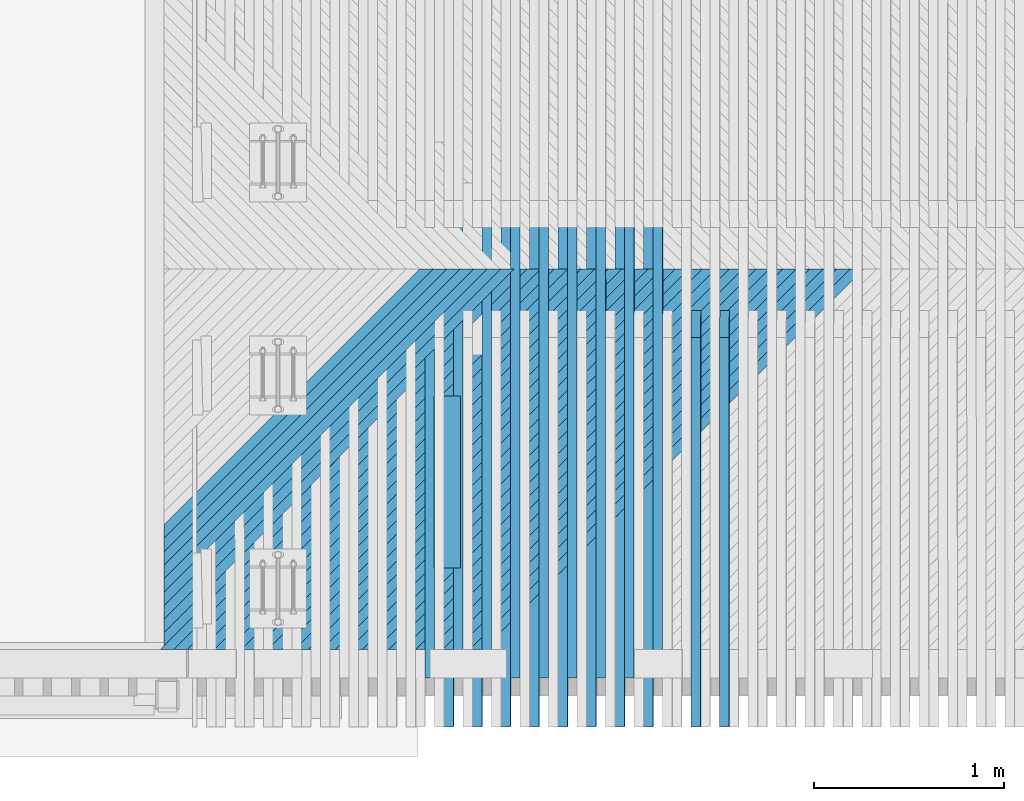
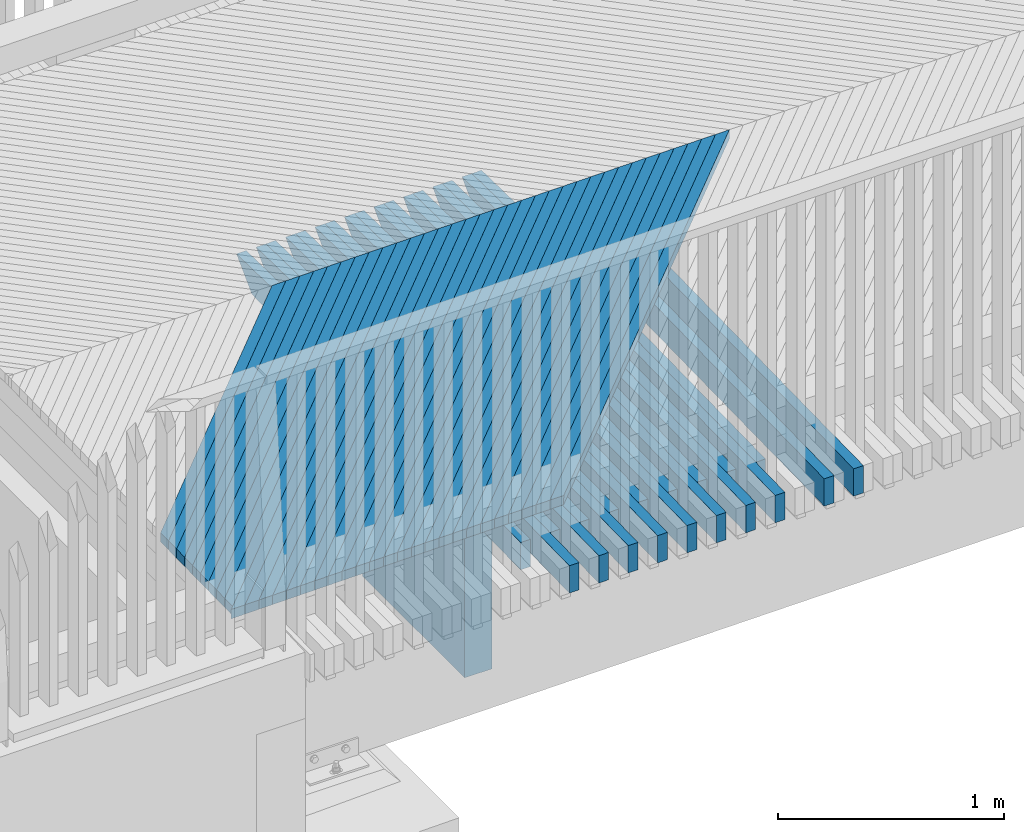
# One storey, part 15 of 47: 53 beams.
"""IFC2X3 building model written with IfcOpenShell, lengths in millimetres."""

import ifcopenshell
import ifcopenshell.guid

model = None  # the IFC model being written
_history = None  # IfcOwnerHistory: only IFC2X3 demands one
_inside = {}  # id of a spatial element -> (the spatial element, [elements in it])
_under = {}  # id of a project, library or spatial element -> (it, [spatial elements below it])
_declared = {}  # id of a project -> (the project, [libraries it declares])
_typed = {}  # id of a type object -> (the type object, [elements of that type])
_made_of = {}  # id of a material, layer set ... -> (it, [elements and type objects made of it])


def new_model(schema):
    """Start an empty IFC model of exactly this schema.

    Asked for "IFC4X3", IfcOpenShell would pick the latest addendum, in which some entities
    have other attributes; the version numbers below select the first issue.
    IFC2X3 requires an IfcOwnerHistory on every rooted entity: one is made here for all.
    """
    global model, _history
    if schema == "IFC4X3":
        model = ifcopenshell.file(schema_version=(4, 3, 0, 0))
    else:
        model = ifcopenshell.file(schema=schema)
    _inside.clear()
    _under.clear()
    _declared.clear()
    _typed.clear()
    _made_of.clear()
    _history = None
    if model.schema == "IFC2X3":
        org = make("IfcOrganization", Name="unknown")
        user = make(
            "IfcPersonAndOrganization",
            ThePerson=make("IfcPerson", FamilyName="unknown"),
            TheOrganization=org,
        )
        app = make(
            "IfcApplication",
            ApplicationDeveloper=org,
            Version="unknown",
            ApplicationFullName="unknown",
            ApplicationIdentifier="unknown",
        )
        _history = make(
            "IfcOwnerHistory",
            OwningUser=user,
            OwningApplication=app,
            ChangeAction="ADDED",
            CreationDate=0,
        )
    return model


def make(cls, **values):
    """One entity of the class cls with the attributes given. An attribute that is None is left unset."""
    return model.create_entity(
        cls, **{name: value for name, value in values.items() if value is not None}
    )


def rooted(cls, **values):
    """An entity with a GlobalId (a new one), such as an element, a storey or a relation."""
    return make(cls, GlobalId=ifcopenshell.guid.new(), OwnerHistory=_history, **values)


def si_unit(unit_type, name, prefix=None):
    """IfcSIUnit, for example si_unit("LENGTHUNIT", "METRE", prefix="MILLI")."""
    return make("IfcSIUnit", UnitType=unit_type, Prefix=prefix, Name=name)


def assignment(units):
    """IfcUnitAssignment: the units of a project."""
    return None if units is None else make("IfcUnitAssignment", Units=units)


def point(xyz):
    """IfcCartesianPoint."""
    return None if xyz is None else make("IfcCartesianPoint", Coordinates=xyz)


def direction(xyz):
    """IfcDirection."""
    return None if xyz is None else make("IfcDirection", DirectionRatios=xyz)


def frame(location, z_axis=None, x_axis=None):
    """IfcAxis2Placement3D, a coordinate frame: its origin and axes. An axis left out is left unset."""
    return make(
        "IfcAxis2Placement3D",
        Location=point(location),
        Axis=direction(z_axis),
        RefDirection=direction(x_axis),
    )


def origin_with_axes():
    """The frame at (0, 0, 0) with the z axis (0, 0, 1) and the x axis (1, 0, 0) written out."""
    return frame((0.0, 0.0, 0.0), z_axis=(0.0, 0.0, 1.0), x_axis=(1.0, 0.0, 0.0))


def place(relative_to, where):
    """IfcLocalPlacement: puts the frame where relative to a parent placement (None: the world)."""
    return make(
        "IfcLocalPlacement", PlacementRelTo=relative_to, RelativePlacement=where
    )


def context(
    kind, dimensions, precision=None, world=None, true_north=None, identifier=None
):
    """IfcGeometricRepresentationContext, for example the 3D "Model" context."""
    return make(
        "IfcGeometricRepresentationContext",
        ContextIdentifier=identifier,
        ContextType=kind,
        CoordinateSpaceDimension=dimensions,
        Precision=precision,
        WorldCoordinateSystem=world,
        TrueNorth=true_north,
    )


def subcontext(parent, identifier, kind, view, scale=None):
    """IfcGeometricRepresentationSubContext, for example "Body" below "Model"."""
    return make(
        "IfcGeometricRepresentationSubContext",
        ContextIdentifier=identifier,
        ContextType=kind,
        ParentContext=parent,
        TargetScale=scale,
        TargetView=view,
    )


def project(units=None, contexts=None):
    """IfcProject with its units and contexts."""
    return rooted(
        "IfcProject",
        Name="project",
        RepresentationContexts=contexts,
        UnitsInContext=assignment(units),
    )


def spatial(cls, under=None, at=None, **own):
    """A site, building, storey or space (cls), placed at a placement, below another one or the project."""
    s = rooted(cls, ObjectPlacement=at, **own)
    if under is not None:
        _under.setdefault(under.id(), (under, []))[1].append(s)
    return s


def faces_of(points, faces, orient=None, outer=None):
    """IfcFace entities. A face is a list of loops; a loop is a list of indices into points, from 0.

    orient and outer hold one flag for each loop. By default every Orientation is true, the
    first loop of a face is its IfcFaceOuterBound and the others are IfcFaceBound.
    """
    made = []
    for i, loops in enumerate(faces):
        bounds = []
        for j, loop in enumerate(loops):
            is_outer = j == 0 if outer is None else outer[i][j]
            bounds.append(
                make(
                    "IfcFaceOuterBound" if is_outer else "IfcFaceBound",
                    Bound=make("IfcPolyLoop", Polygon=[points[k] for k in loop]),
                    Orientation=True if orient is None else orient[i][j],
                )
            )
        made.append(make("IfcFace", Bounds=bounds))
    return made


def faceted_brep(points, faces, orient=None, outer=None, voids=None):
    """IfcFacetedBrep: a solid bounded by flat faces; with voids (closed shells), ...WithVoids."""
    shared = [point(p) for p in points]
    hull = make("IfcClosedShell", CfsFaces=faces_of(shared, faces, orient, outer))
    if voids is None:
        return make("IfcFacetedBrep", Outer=hull)
    return make(
        "IfcFacetedBrepWithVoids",
        Outer=hull,
        Voids=[
            make(cls, CfsFaces=faces_of(shared, fs, o, b)) for cls, fs, o, b in voids
        ],
    )


def shape(context_of_items, identifier, shape_type, items):
    """IfcShapeRepresentation: the items that make up one representation, for example the "Body"."""
    return make(
        "IfcShapeRepresentation",
        ContextOfItems=context_of_items,
        RepresentationIdentifier=identifier,
        RepresentationType=shape_type,
        Items=items,
    )


def material(Name=None, Category=None):
    """IfcMaterial."""
    return make("IfcMaterial", Name=Name, Category=Category)


def made_of(thing, what):
    """Note that an element or type object is made of a material, layer set ...; save() writes the relation."""
    if what is not None:
        _made_of.setdefault(what.id(), (what, []))[1].append(thing)
    return thing


def type_object(cls, material=None, **own):
    """A type object (cls), such as IfcWallType, which elements share."""
    return made_of(rooted(cls, **own), material)


def element(
    cls,
    number,
    at=None,
    inside=None,
    cuts=None,
    type_object=None,
    material=None,
    context=None,
    identifier="Body",
    shape_type=None,
    held_by="IfcProductDefinitionShape",
    body=None,
    shapes=None,
    **own,
):
    """One element of the class cls, such as IfcWall. Its Tag is "e" and its number.

    at: its placement. inside: the storey or other place that contains it. cuts: it is an
    opening in that element (IfcRelVoidsElement). A single representation is given by context,
    identifier, shape_type and body (its items); several are given by shapes. held_by: the class
    of the entity that holds the representations. save() writes the other relations.
    """
    e = rooted(cls, Tag="e%d" % number, ObjectPlacement=at, **own)
    if body is not None:
        shapes = [shape(context, identifier, shape_type, body)]
    if shapes is not None:
        e.Representation = make(held_by, Representations=shapes)
    if inside is not None:
        _inside.setdefault(inside.id(), (inside, []))[1].append(e)
    if cuts is not None:
        rooted(
            "IfcRelVoidsElement", RelatingBuildingElement=cuts, RelatedOpeningElement=e
        )
    if type_object is not None:
        _typed.setdefault(type_object.id(), (type_object, []))[1].append(e)
    return made_of(e, material)


def aggregate(whole, parts):
    """IfcRelAggregates: a whole, such as a stair, and the parts it consists of."""
    return rooted("IfcRelAggregates", RelatingObject=whole, RelatedObjects=parts)


def save(model, path):
    """Write the relations noted so far, then the file.

    IfcRelAggregates (storeys below a building ...), IfcRelContainedInSpatialStructure (elements
    in a storey), IfcRelDefinesByType, IfcRelAssociatesMaterial and IfcRelDeclares: one each for
    every whole, place, type object, material and project.
    """
    for whole, parts in _under.values():
        aggregate(whole, parts)
    for where, things in _inside.values():
        rooted(
            "IfcRelContainedInSpatialStructure",
            RelatedElements=things,
            RelatingStructure=where,
        )
    for kind, things in _typed.values():
        rooted("IfcRelDefinesByType", RelatedObjects=things, RelatingType=kind)
    for what, things in _made_of.values():
        rooted("IfcRelAssociatesMaterial", RelatedObjects=things, RelatingMaterial=what)
    for by, libraries in _declared.values():
        rooted("IfcRelDeclares", RelatingContext=by, RelatedDefinitions=libraries)
    model.write(path)


model = new_model("IFC2X3")

# Units and contexts
model_context = context("Model", 3, precision=1e-05, world=origin_with_axes())
body_context = subcontext(model_context, "Body", "Model", "MODEL_VIEW")
ifc_project = project(units=[si_unit("LENGTHUNIT", "METRE", prefix="MILLI"), si_unit("AREAUNIT", "SQUARE_METRE"), si_unit("VOLUMEUNIT", "CUBIC_METRE"), si_unit("MASSUNIT", "GRAM", prefix="KILO"), si_unit("TIMEUNIT", "SECOND"), si_unit("PLANEANGLEUNIT", "RADIAN"), si_unit("SOLIDANGLEUNIT", "STERADIAN"), si_unit("THERMODYNAMICTEMPERATUREUNIT", "DEGREE_CELSIUS"), si_unit("LUMINOUSINTENSITYUNIT", "LUMEN")], contexts=[model_context])

# Site, building, storey
site_placement = place(None, origin_with_axes())
site = spatial("IfcSite", under=ifc_project, at=site_placement, Name="Undefined", CompositionType="ELEMENT")
building_placement = place(site_placement, origin_with_axes())
building = spatial("IfcBuilding", under=site, at=building_placement, Name="Undefined", CompositionType="ELEMENT")
storey_placement = place(building_placement, origin_with_axes())
storey = spatial("IfcBuildingStorey", under=building, at=storey_placement, Name="Undefined", CompositionType="ELEMENT", Elevation=0.0)

# Beams
ifc_material = material(Name="TIMBER/Timber_Undefined")
beam_type_1 = type_object("IfcBeamType", Name="150*50", PredefinedType="NOTDEFINED")
beam_1_placement = place(storey_placement, frame((898.779144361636, 59958.5561921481, 3046.10153972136), z_axis=(-0.0117917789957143, -0.0199960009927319, 0.999730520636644), x_axis=(-0.000235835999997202, 0.999800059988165, 0.0199946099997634)))
element("IfcBeam", 1, at=beam_1_placement, inside=storey, type_object=beam_type_1, material=ifc_material, Name="BEAM", ObjectType="150*50", context=body_context, shape_type="Brep", body=[
    faceted_brep([(6.18456397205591e-09, -24.9999999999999, -75.0000000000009), (-6.1918399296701e-09, -24.9999999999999, 74.9999999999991), (-6.19911588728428e-09, 25.0, 75.0), (6.18456397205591e-09, 24.9999999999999, -75.0), (2633.00494983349, 25.0000000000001, -75.0000000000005), (2633.00495050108, -24.9999999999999, -75.0000000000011), (2768.59248707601, -25.0, 60.5875366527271), (2408.42499905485, -25.0, 74.9999999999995), (2408.42501428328, 25.0000000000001, 74.9999999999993), (2768.5924870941, 25.0, 60.5875375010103)], [[[0, 1, 2, 3]], [[0, 3, 4, 5]], [[1, 0, 5, 6, 7]], [[2, 1, 7, 8]], [[4, 3, 2, 8, 9]], [[5, 4, 9, 6]], [[8, 7, 6, 9]]]),
])
beam_2_placement = place(storey_placement, frame((798.705323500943, 60216.5046076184, 3050.07192369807), z_axis=(-0.0119578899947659, -0.019996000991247, 0.999728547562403), x_axis=(-0.00023915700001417, 0.999800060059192, 0.0199945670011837)))
element("IfcBeam", 2, at=beam_2_placement, inside=storey, type_object=beam_type_1, material=ifc_material, Name="BEAM", ObjectType="150*50", context=body_context, shape_type="Brep", body=[
    faceted_brep([(6.18456397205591e-09, -24.9999999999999, -75.0000000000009), (-6.1918399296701e-09, -24.9999999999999, 74.9999999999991), (-6.19911588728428e-09, 25.0, 75.0), (6.18456397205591e-09, 24.9999999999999, -75.0), (2375.00494220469, 24.9999999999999, -75.0000000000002), (2375.00494218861, -25.0, -75.0), (2510.59248711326, -25.0, 60.5875455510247), (2150.42518973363, -25.0, 75.0000000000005), (2150.42518840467, 25.0, 74.9999999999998), (2510.59248707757, 25.0, 60.5875454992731)], [[[0, 1, 2, 3]], [[0, 3, 4, 5]], [[1, 0, 5, 6, 7]], [[2, 1, 7, 8]], [[4, 3, 2, 8, 9]], [[5, 4, 9, 6]], [[8, 7, 6, 9]]]),
])
beam_3_placement = place(storey_placement, frame((1048.7976881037, 59958.5561921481, 3047.8527036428), z_axis=(-0.0115426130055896, -0.0199960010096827, 0.999733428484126), x_axis=(-0.000230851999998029, 0.999800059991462, 0.0199946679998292)))
element("IfcBeam", 3, at=beam_3_placement, inside=storey, type_object=beam_type_1, material=ifc_material, Name="BEAM", ObjectType="150*50", context=body_context, shape_type="Brep", body=[
    faceted_brep([(6.18456397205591e-09, -24.9999999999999, -75.0000000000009), (-6.1918399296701e-09, -24.9999999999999, 74.9999999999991), (-6.19911588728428e-09, 25.0, 75.0), (6.18456397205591e-09, 24.9999999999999, -75.0), (2633.00494983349, 25.0000000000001, -75.0000000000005), (2633.00495050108, -24.9999999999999, -75.0000000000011), (2768.59248707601, -25.0, 60.5875366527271), (2408.42499905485, -25.0, 74.9999999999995), (2408.42501428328, 25.0000000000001, 74.9999999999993), (2768.5924870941, 25.0, 60.5875375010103)], [[[0, 1, 2, 3]], [[0, 3, 4, 5]], [[1, 0, 5, 6, 7]], [[2, 1, 7, 8]], [[4, 3, 2, 8, 9]], [[5, 4, 9, 6]], [[8, 7, 6, 9]]]),
])
beam_4_placement = place(storey_placement, frame((948.724859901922, 60216.5046076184, 3051.84802919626), z_axis=(-0.0117087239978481, -0.0199960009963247, 0.999731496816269), x_axis=(-0.000234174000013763, 0.999800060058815, 0.0199946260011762)))
element("IfcBeam", 4, at=beam_4_placement, inside=storey, type_object=beam_type_1, material=ifc_material, Name="BEAM", ObjectType="150*50", context=body_context, shape_type="Brep", body=[
    faceted_brep([(6.18456397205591e-09, -24.9999999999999, -75.0000000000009), (-6.1918399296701e-09, -24.9999999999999, 74.9999999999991), (-6.19911588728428e-09, 25.0, 75.0), (6.18456397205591e-09, 24.9999999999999, -75.0), (2375.00494220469, 24.9999999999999, -75.0000000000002), (2375.00494218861, -25.0, -75.0), (2510.59248711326, -25.0, 60.5875455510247), (2150.42518973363, -25.0, 75.0000000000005), (2150.42518840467, 25.0, 74.9999999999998), (2510.59248707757, 25.0, 60.5875454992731)], [[[0, 1, 2, 3]], [[0, 3, 4, 5]], [[1, 0, 5, 6, 7]], [[2, 1, 7, 8]], [[4, 3, 2, 8, 9]], [[5, 4, 9, 6]], [[8, 7, 6, 9]]]),
])
beam_5_placement = place(storey_placement, frame((1198.81666363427, 59958.5561921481, 3049.56647793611), z_axis=(-0.0112934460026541, -0.0199960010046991, 0.999736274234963), x_axis=(-0.000225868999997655, 0.999800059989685, 0.0199947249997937)))
element("IfcBeam", 5, at=beam_5_placement, inside=storey, type_object=beam_type_1, material=ifc_material, Name="BEAM", ObjectType="150*50", context=body_context, shape_type="Brep", body=[
    faceted_brep([(6.18456397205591e-09, -24.9999999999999, -75.0000000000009), (-6.1918399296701e-09, -24.9999999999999, 74.9999999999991), (-6.19911588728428e-09, 25.0, 75.0), (6.18456397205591e-09, 24.9999999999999, -75.0), (2633.00494983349, 25.0000000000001, -75.0000000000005), (2633.00495050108, -24.9999999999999, -75.0000000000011), (2768.59248707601, -25.0, 60.5875366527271), (2408.42499905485, -25.0, 74.9999999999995), (2408.42501428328, 25.0000000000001, 74.9999999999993), (2768.5924870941, 25.0, 60.5875375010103)], [[[0, 1, 2, 3]], [[0, 3, 4, 5]], [[1, 0, 5, 6, 7]], [[2, 1, 7, 8]], [[4, 3, 2, 8, 9]], [[5, 4, 9, 6]], [[8, 7, 6, 9]]]),
])
beam_6_placement = place(storey_placement, frame((1098.74483430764, 60216.5046076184, 3053.58674481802), z_axis=(-0.0114595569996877, -0.0199960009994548, 0.999734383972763), x_axis=(-0.000229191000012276, 0.9998000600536, 0.0199946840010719)))
element("IfcBeam", 6, at=beam_6_placement, inside=storey, type_object=beam_type_1, material=ifc_material, Name="BEAM", ObjectType="150*50", context=body_context, shape_type="Brep", body=[
    faceted_brep([(6.18456397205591e-09, -24.9999999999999, -75.0000000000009), (-6.1918399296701e-09, -24.9999999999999, 74.9999999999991), (-6.19911588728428e-09, 25.0, 75.0), (6.18456397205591e-09, 24.9999999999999, -75.0), (2375.00494220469, 24.9999999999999, -75.0000000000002), (2375.00494218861, -25.0, -75.0), (2510.59248711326, -25.0, 60.5875455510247), (2150.42518973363, -25.0, 75.0000000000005), (2150.42518840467, 25.0, 74.9999999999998), (2510.59248707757, 25.0, 60.5875454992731)], [[[0, 1, 2, 3]], [[0, 3, 4, 5]], [[1, 0, 5, 6, 7]], [[2, 1, 7, 8]], [[4, 3, 2, 8, 9]], [[5, 4, 9, 6]], [[8, 7, 6, 9]]]),
])
beam_7_placement = place(storey_placement, frame((1348.8360616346, 59958.5561921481, 3051.24286249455), z_axis=(-0.0110442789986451, -0.0199960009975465, 0.999739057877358), x_axis=(-0.000220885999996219, 0.99980005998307, 0.0199947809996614)))
element("IfcBeam", 7, at=beam_7_placement, inside=storey, type_object=beam_type_1, material=ifc_material, Name="BEAM", ObjectType="150*50", context=body_context, shape_type="Brep", body=[
    faceted_brep([(6.18456397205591e-09, -24.9999999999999, -75.0000000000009), (-6.1918399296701e-09, -24.9999999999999, 74.9999999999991), (-6.19911588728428e-09, 25.0, 75.0), (6.18456397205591e-09, 24.9999999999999, -75.0), (2633.00494983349, 25.0000000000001, -75.0000000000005), (2633.00495050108, -24.9999999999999, -75.0000000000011), (2768.59248707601, -25.0, 60.5875366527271), (2408.42499905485, -25.0, 74.9999999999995), (2408.42501428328, 25.0000000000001, 74.9999999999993), (2768.5924870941, 25.0, 60.5875375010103)], [[[0, 1, 2, 3]], [[0, 3, 4, 5]], [[1, 0, 5, 6, 7]], [[2, 1, 7, 8]], [[4, 3, 2, 8, 9]], [[5, 4, 9, 6]], [[8, 7, 6, 9]]]),
])
beam_8_placement = place(storey_placement, frame((1248.76523739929, 60216.5046076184, 3055.28807045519), z_axis=(-0.0112103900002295, -0.0199960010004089, 0.999737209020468), x_axis=(-0.000224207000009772, 0.999800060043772, 0.0199947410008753)))
element("IfcBeam", 8, at=beam_8_placement, inside=storey, type_object=beam_type_1, material=ifc_material, Name="BEAM", ObjectType="150*50", context=body_context, shape_type="Brep", body=[
    faceted_brep([(6.18456397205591e-09, -24.9999999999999, -75.0000000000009), (-6.1918399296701e-09, -24.9999999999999, 74.9999999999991), (-6.19911588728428e-09, 25.0, 75.0), (6.18456397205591e-09, 24.9999999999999, -75.0), (2375.00494220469, 24.9999999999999, -75.0000000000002), (2375.00494218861, -25.0, -75.0), (2510.59248711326, -25.0, 60.5875455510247), (2150.42518973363, -25.0, 75.0000000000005), (2150.42518840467, 25.0, 74.9999999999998), (2510.59248707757, 25.0, 60.5875454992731)], [[[0, 1, 2, 3]], [[0, 3, 4, 5]], [[1, 0, 5, 6, 7]], [[2, 1, 7, 8]], [[4, 3, 2, 8, 9]], [[5, 4, 9, 6]], [[8, 7, 6, 9]]]),
])
beam_9_placement = place(storey_placement, frame((1498.85587278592, 59958.5561921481, 3052.88185721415), z_axis=(-0.0107951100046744, -0.0199960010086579, 0.999741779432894), x_axis=(-0.000215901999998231, 0.999800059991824, 0.0199948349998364)))
element("IfcBeam", 9, at=beam_9_placement, inside=storey, type_object=beam_type_1, material=ifc_material, Name="BEAM", ObjectType="150*50", context=body_context, shape_type="Brep", body=[
    faceted_brep([(6.18456397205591e-09, -24.9999999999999, -75.0000000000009), (-6.1918399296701e-09, -24.9999999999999, 74.9999999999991), (-6.19911588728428e-09, 25.0, 75.0), (6.18456397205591e-09, 24.9999999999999, -75.0), (2633.00494983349, 25.0000000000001, -75.0000000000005), (2633.00495050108, -24.9999999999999, -75.0000000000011), (2768.59248707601, -25.0, 60.5875366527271), (2408.42499905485, -25.0, 74.9999999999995), (2408.42501428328, 25.0000000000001, 74.9999999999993), (2768.5924870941, 25.0, 60.5875375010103)], [[[0, 1, 2, 3]], [[0, 3, 4, 5]], [[1, 0, 5, 6, 7]], [[2, 1, 7, 8]], [[4, 3, 2, 8, 9]], [[5, 4, 9, 6]], [[8, 7, 6, 9]]]),
])
beam_10_placement = place(storey_placement, frame((1398.78605985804, 60216.5046076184, 3056.95200600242), z_axis=(-0.0109612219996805, -0.0199960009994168, 0.999739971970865), x_axis=(-0.000219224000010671, 0.999800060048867, 0.0199947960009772)))
element("IfcBeam", 10, at=beam_10_placement, inside=storey, type_object=beam_type_1, material=ifc_material, Name="BEAM", ObjectType="150*50", context=body_context, shape_type="Brep", body=[
    faceted_brep([(6.18456397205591e-09, -24.9999999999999, -75.0000000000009), (-6.1918399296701e-09, -24.9999999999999, 74.9999999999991), (-6.19911588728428e-09, 25.0, 75.0), (6.18456397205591e-09, 24.9999999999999, -75.0), (2375.00494220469, 24.9999999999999, -75.0000000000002), (2375.00494218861, -25.0, -75.0), (2510.59248711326, -25.0, 60.5875455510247), (2150.42518973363, -25.0, 75.0000000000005), (2150.42518840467, 25.0, 74.9999999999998), (2510.59248707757, 25.0, 60.5875454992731)], [[[0, 1, 2, 3]], [[0, 3, 4, 5]], [[1, 0, 5, 6, 7]], [[2, 1, 7, 8]], [[4, 3, 2, 8, 9]], [[5, 4, 9, 6]], [[8, 7, 6, 9]]]),
])
beam_11_placement = place(storey_placement, frame((1648.87608776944, 59958.5561921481, 3054.48346199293), z_axis=(-0.0105459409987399, -0.0199960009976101, 0.999744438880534), x_axis=(-0.000210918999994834, 0.99980005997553, 0.0199948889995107)))
element("IfcBeam", 11, at=beam_11_placement, inside=storey, type_object=beam_type_1, material=ifc_material, Name="BEAM", ObjectType="150*50", context=body_context, shape_type="Brep", body=[
    faceted_brep([(6.18456397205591e-09, -24.9999999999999, -75.0000000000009), (-6.1918399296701e-09, -24.9999999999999, 74.9999999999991), (-6.19911588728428e-09, 25.0, 75.0), (6.18456397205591e-09, 24.9999999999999, -75.0), (2633.00494983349, 25.0000000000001, -75.0000000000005), (2633.00495050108, -24.9999999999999, -75.0000000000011), (2768.59248707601, -25.0, 60.5875366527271), (2408.42499905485, -25.0, 74.9999999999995), (2408.42501428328, 25.0000000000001, 74.9999999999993), (2768.5924870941, 25.0, 60.5875375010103)], [[[0, 1, 2, 3]], [[0, 3, 4, 5]], [[1, 0, 5, 6, 7]], [[2, 1, 7, 8]], [[4, 3, 2, 8, 9]], [[5, 4, 9, 6]], [[8, 7, 6, 9]]]),
])
beam_12_placement = place(storey_placement, frame((1548.80729236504, 60216.5046076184, 3058.57855135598), z_axis=(-0.0107120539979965, -0.0199960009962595, 0.99974267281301), x_axis=(-0.00021424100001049, 0.999800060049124, 0.0199948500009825)))
element("IfcBeam", 12, at=beam_12_placement, inside=storey, type_object=beam_type_1, material=ifc_material, Name="BEAM", ObjectType="150*50", context=body_context, shape_type="Brep", body=[
    faceted_brep([(6.18456397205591e-09, -24.9999999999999, -75.0000000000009), (-6.1918399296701e-09, -24.9999999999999, 74.9999999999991), (-6.19911588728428e-09, 25.0, 75.0), (6.18456397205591e-09, 24.9999999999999, -75.0), (2375.00494220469, 24.9999999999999, -75.0000000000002), (2375.00494218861, -25.0, -75.0), (2510.59248711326, -25.0, 60.5875455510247), (2150.42518973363, -25.0, 75.0000000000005), (2150.42518840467, 25.0, 74.9999999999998), (2510.59248707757, 25.0, 60.5875454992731)], [[[0, 1, 2, 3]], [[0, 3, 4, 5]], [[1, 0, 5, 6, 7]], [[2, 1, 7, 8]], [[4, 3, 2, 8, 9]], [[5, 4, 9, 6]], [[8, 7, 6, 9]]]),
])
beam_13_placement = place(storey_placement, frame((1798.89669726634, 59958.5561921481, 3056.0476767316), z_axis=(-0.0102967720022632, -0.0199960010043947, 0.999747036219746), x_axis=(-0.000205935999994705, 0.999800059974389, 0.0199949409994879)))
element("IfcBeam", 13, at=beam_13_placement, inside=storey, type_object=beam_type_1, material=ifc_material, Name="BEAM", ObjectType="150*50", context=body_context, shape_type="Brep", body=[
    faceted_brep([(6.18456397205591e-09, -24.9999999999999, -75.0000000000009), (-6.1918399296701e-09, -24.9999999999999, 74.9999999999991), (-6.19911588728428e-09, 25.0, 75.0), (6.18456397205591e-09, 24.9999999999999, -75.0), (2633.00494983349, 25.0000000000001, -75.0000000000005), (2633.00495050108, -24.9999999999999, -75.0000000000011), (2768.59248707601, -25.0, 60.5875366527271), (2408.42499905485, -25.0, 74.9999999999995), (2408.42501428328, 25.0000000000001, 74.9999999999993), (2768.5924870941, 25.0, 60.5875375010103)], [[[0, 1, 2, 3]], [[0, 3, 4, 5]], [[1, 0, 5, 6, 7]], [[2, 1, 7, 8]], [[4, 3, 2, 8, 9]], [[5, 4, 9, 6]], [[8, 7, 6, 9]]]),
])
beam_14_placement = place(storey_placement, frame((1698.8289256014, 60216.5046076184, 3060.16770641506), z_axis=(-0.0104628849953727, -0.0199960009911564, 0.999745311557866), x_axis=(-0.000209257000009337, 0.999800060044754, 0.019994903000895)))
element("IfcBeam", 14, at=beam_14_placement, inside=storey, type_object=beam_type_1, material=ifc_material, Name="BEAM", ObjectType="150*50", context=body_context, shape_type="Brep", body=[
    faceted_brep([(6.18456397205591e-09, -24.9999999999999, -75.0000000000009), (-6.1918399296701e-09, -24.9999999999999, 74.9999999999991), (-6.19911588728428e-09, 25.0, 75.0), (6.18456397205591e-09, 24.9999999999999, -75.0), (2375.00494220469, 24.9999999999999, -75.0000000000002), (2375.00494218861, -25.0, -75.0), (2510.59248711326, -25.0, 60.5875455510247), (2150.42518973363, -25.0, 75.0000000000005), (2150.42518840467, 25.0, 74.9999999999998), (2510.59248707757, 25.0, 60.5875454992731)], [[[0, 1, 2, 3]], [[0, 3, 4, 5]], [[1, 0, 5, 6, 7]], [[2, 1, 7, 8]], [[4, 3, 2, 8, 9]], [[5, 4, 9, 6]], [[8, 7, 6, 9]]]),
])
beam_15_placement = place(storey_placement, frame((1948.91769195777, 59958.5561921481, 3057.57450133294), z_axis=(-0.0100476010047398, -0.0199960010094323, 0.999749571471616), x_axis=(-0.000200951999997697, 0.999800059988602, 0.019994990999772)))
element("IfcBeam", 15, at=beam_15_placement, inside=storey, type_object=beam_type_1, material=ifc_material, Name="BEAM", ObjectType="150*50", context=body_context, shape_type="Brep", body=[
    faceted_brep([(6.18456397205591e-09, -24.9999999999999, -75.0000000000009), (-6.1918399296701e-09, -24.9999999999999, 74.9999999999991), (-6.19911588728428e-09, 25.0, 75.0), (6.18456397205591e-09, 24.9999999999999, -75.0), (2633.00494983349, 25.0000000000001, -75.0000000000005), (2633.00495050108, -24.9999999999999, -75.0000000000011), (2768.59248707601, -25.0, 60.5875366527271), (2408.42499905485, -25.0, 74.9999999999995), (2408.42501428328, 25.0000000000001, 74.9999999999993), (2768.5924870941, 25.0, 60.5875375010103)], [[[0, 1, 2, 3]], [[0, 3, 4, 5]], [[1, 0, 5, 6, 7]], [[2, 1, 7, 8]], [[4, 3, 2, 8, 9]], [[5, 4, 9, 6]], [[8, 7, 6, 9]]]),
])
for number, where, z_axis, x_axis, name in (
    (16, (1848.8509502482, 60216.5046076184, 3061.71947108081), (-0.0102137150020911, -0.0199960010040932, 0.999747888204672), (-0.000204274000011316, 0.999800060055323, 0.0199949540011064), "BEAM"),
    (17, (1998.87335698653, 60216.5046076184, 3063.23384525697), (-0.00996454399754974, -0.0199960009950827, 0.99975040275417), (-0.000199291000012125, 0.999800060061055, 0.019995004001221), "BEAM"),
):
    element("IfcBeam", number, at=place(storey_placement, frame(where, z_axis=z_axis, x_axis=x_axis)), inside=storey, type_object=beam_type_1, material=ifc_material, Name=name, ObjectType="150*50", context=body_context, shape_type="Brep", body=[
        faceted_brep([(6.18456397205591e-09, -24.9999999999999, -75.0000000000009), (-6.1918399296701e-09, -24.9999999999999, 74.9999999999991), (-6.19911588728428e-09, 25.0, 75.0), (6.18456397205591e-09, 24.9999999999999, -75.0), (2375.00494220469, 24.9999999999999, -75.0000000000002), (2375.00494218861, -25.0, -75.0), (2510.59248711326, -25.0, 60.5875455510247), (2150.42518973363, -25.0, 75.0000000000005), (2150.42518840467, 25.0, 74.9999999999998), (2510.59248707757, 25.0, 60.5875454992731)], [[[0, 1, 2, 3]], [[0, 3, 4, 5]], [[1, 0, 5, 6, 7]], [[2, 1, 7, 8]], [[4, 3, 2, 8, 9]], [[5, 4, 9, 6]], [[8, 7, 6, 9]]]),
    ])
for number, where, z_axis, x_axis, name in (
    (18, (2198.92452152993, 59958.5561921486, 3060.03716992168), (-0.00971537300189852, -0.019996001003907, 0.999752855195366), (-0.000194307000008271, 0.999800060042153, 0.0199950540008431), "BEAM"),
    (19, (2348.94649811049, 59958.5561921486, 3061.46429425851), (-0.00946620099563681, -0.0199960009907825, 0.99975524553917), (-0.000189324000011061, 0.999800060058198, 0.0199951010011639), "BEAM"),
):
    element("IfcBeam", number, at=place(storey_placement, frame(where, z_axis=z_axis, x_axis=x_axis)), inside=storey, type_object=beam_type_1, material=ifc_material, Name=name, ObjectType="150*50", context=body_context, shape_type="Brep", body=[
        faceted_brep([(6.18456397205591e-09, -24.9999999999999, -75.0000000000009), (-6.1918399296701e-09, -24.9999999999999, 74.9999999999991), (-6.19911588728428e-09, 25.0, 75.0), (6.18456397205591e-09, 24.9999999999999, -75.0), (2186.42645915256, -25.0000000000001, -75.0), (2047.96936034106, -25.0000000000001, 75.0), (2047.96935975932, 25.0, 75.0), (2186.42645864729, 25.0, -75.0)], [[[0, 1, 2, 3]], [[1, 0, 4, 5]], [[2, 1, 5, 6]], [[3, 2, 6, 7]], [[0, 3, 7, 4]], [[5, 4, 7, 6]]]),
    ])
beam_type_2 = type_object("IfcBeamType", Name="945*140", PredefinedType="NOTDEFINED")
beam_16_placement = place(storey_placement, frame((891.0, 61697.5, 2500.3779002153), z_axis=(0.0, 0.0, 1.0), x_axis=(0.0, -1.0, 0.0)))
element("IfcBeam", 20, at=beam_16_placement, inside=storey, type_object=beam_type_2, material=ifc_material, Name="PALKKI", ObjectType="945*140", context=body_context, shape_type="Brep", body=[
    faceted_brep([(0.0, 70.0, -472.5), (0.0, 70.0, 472.5), (905.0, 70.0, 472.5), (905.0, 70.0, -472.5), (0.0, -70.0, 472.5), (905.0, -70.0, 472.5), (0.0, -70.0, -472.5), (905.0, -70.0, -472.5)], [[[0, 1, 2, 3]], [[1, 4, 5, 2]], [[4, 6, 7, 5]], [[6, 0, 3, 7]], [[5, 7, 3, 2]], [[6, 4, 1, 0]]]),
])
beam_type_3 = type_object("IfcBeamType", Name="50*50", PredefinedType="NOTDEFINED")
beam_17_placement = place(storey_placement, frame((780.659263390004, 62364.5001003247, 3192.8403036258), z_axis=(0.707217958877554, -0.706981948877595, -0.00439119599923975), x_axis=(-0.706861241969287, -0.706948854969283, -0.0238851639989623)))
element("IfcBeam", 21, at=beam_17_placement, inside=storey, type_object=beam_type_3, material=ifc_material, Name="BEAM", ObjectType="50*50", context=body_context, shape_type="Brep", body=[
    faceted_brep([(23.4806436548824, -25.0000000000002, -25.0), (-26.4222658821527, -25.0000000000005, 25.0000000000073), (-25.0086637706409, 24.9999999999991, 25.0), (24.8942457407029, 24.9999999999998, -24.9999999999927), (1928.70012414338, 25.0, -25.0), (1927.72524901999, -24.9999999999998, -25.0), (1977.75048147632, -25.0000000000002, 25.0), (1978.72535659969, 25.0, 25.0)], [[[0, 1, 2, 3]], [[0, 3, 4, 5]], [[1, 0, 5, 6]], [[2, 1, 6, 7]], [[3, 2, 7, 4]], [[6, 5, 4, 7]]]),
])
beam_18_placement = place(storey_placement, frame((851.378462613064, 62364.5001003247, 3193.68413878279), z_axis=(0.707217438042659, -0.706981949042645, -0.00447426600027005), x_axis=(-0.706864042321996, -0.706948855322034, -0.0238021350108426)))
element("IfcBeam", 22, at=beam_18_placement, inside=storey, type_object=beam_type_3, material=ifc_material, Name="BEAM", ObjectType="50*50", context=body_context, shape_type="Brep", body=[
    faceted_brep([(23.4806436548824, -25.0000000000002, -25.0), (-26.4222658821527, -25.0000000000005, 25.0000000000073), (-25.0086637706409, 24.9999999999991, 25.0), (24.8942457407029, 24.9999999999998, -24.9999999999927), (2028.73474369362, 25.0, -25.0), (2027.76817857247, -25.0000000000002, -25.0), (2077.79317600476, -25.0000000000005, 25.0000000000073), (2078.7597411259, 25.0, 25.0)], [[[0, 1, 2, 3]], [[0, 3, 4, 5]], [[1, 0, 5, 6]], [[2, 1, 6, 7]], [[3, 2, 7, 4]], [[6, 5, 4, 7]]]),
])
beam_19_placement = place(storey_placement, frame((922.097760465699, 62364.5001003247, 3194.51966721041), z_axis=(0.707216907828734, -0.706981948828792, -0.00455733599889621), x_axis=(-0.706866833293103, -0.706948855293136, -0.0237191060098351)))
element("IfcBeam", 23, at=beam_19_placement, inside=storey, type_object=beam_type_3, material=ifc_material, Name="BEAM", ObjectType="50*50", context=body_context, shape_type="Brep", body=[
    faceted_brep([(23.4806436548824, -25.0000000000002, -25.0), (-26.4222658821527, -25.0000000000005, 25.0000000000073), (-25.0086637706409, 24.9999999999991, 25.0), (24.8942457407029, 24.9999999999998, -24.9999999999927), (2128.76873875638, 24.9999999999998, -25.0), (2127.81048355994, -24.9999999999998, -25.0000000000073), (2177.83524597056, -25.0000000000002, 24.9999999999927), (2178.79350116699, 25.0, 24.9999999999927)], [[[0, 1, 2, 3]], [[0, 3, 4, 5]], [[1, 0, 5, 6]], [[2, 1, 6, 7]], [[3, 2, 7, 4]], [[6, 5, 4, 7]]]),
])
beam_20_placement = place(storey_placement, frame((992.817155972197, 62364.5001003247, 3195.34688889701), z_axis=(0.707216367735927, -0.706981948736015, -0.00464040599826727), x_axis=(-0.706869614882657, -0.706948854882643, -0.0236360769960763)))
element("IfcBeam", 24, at=beam_20_placement, inside=storey, type_object=beam_type_3, material=ifc_material, Name="BEAM", ObjectType="50*50", context=body_context, shape_type="Brep", body=[
    faceted_brep([(23.4806436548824, -25.0000000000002, -25.0), (-26.4222658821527, -25.0000000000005, 25.0000000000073), (-25.0086637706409, 24.9999999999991, 25.0), (24.8942457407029, 24.9999999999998, -24.9999999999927), (2228.80211195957, 25.0000000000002, -25.0000000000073), (2227.85216660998, -24.9999999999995, -25.0000000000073), (2277.87669396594, -24.9999999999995, 24.9999999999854), (2278.82663931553, 25.0000000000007, 24.9999999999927)], [[[0, 1, 2, 3]], [[0, 3, 4, 5]], [[1, 0, 5, 6]], [[2, 1, 6, 7]], [[3, 2, 7, 4]], [[6, 5, 4, 7]]]),
])
beam_21_placement = place(storey_placement, frame((1063.53664815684, 62364.5001003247, 3196.16580383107), z_axis=(0.707215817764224, -0.706981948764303, -0.00472347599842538), x_axis=(-0.706872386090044, -0.706948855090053, -0.0235530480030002)))
element("IfcBeam", 25, at=beam_21_placement, inside=storey, type_object=beam_type_3, material=ifc_material, Name="BEAM", ObjectType="50*50", context=body_context, shape_type="Brep", body=[
    faceted_brep([(23.4806436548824, -25.0000000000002, -25.0), (-26.4222658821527, -25.0000000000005, 25.0000000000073), (-25.0086637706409, 24.9999999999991, 25.0), (24.8942457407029, 24.9999999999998, -24.9999999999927), (2328.83486921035, 24.9999999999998, -25.0), (2327.89323362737, -25.0, -25.0), (2377.91752596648, -25.0, 25.0), (2378.85916154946, 25.0, 24.9999999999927)], [[[0, 1, 2, 3]], [[0, 3, 4, 5]], [[1, 0, 5, 6]], [[2, 1, 6, 7]], [[3, 2, 7, 4]], [[6, 5, 4, 7]]]),
])
beam_22_placement = place(storey_placement, frame((1134.25623604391, 62364.5001003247, 3196.97641200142), z_axis=(0.707215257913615, -0.706981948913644, -0.00480654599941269), x_axis=(-0.706875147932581, -0.706948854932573, -0.0234700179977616)))
element("IfcBeam", 26, at=beam_22_placement, inside=storey, type_object=beam_type_3, material=ifc_material, Name="BEAM", ObjectType="50*50", context=body_context, shape_type="Brep", body=[
    faceted_brep([(23.4806436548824, -25.0000000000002, -25.0), (-26.4222658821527, -25.0000000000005, 25.0000000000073), (-25.0086637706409, 24.9999999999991, 25.0), (24.8942457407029, 24.9999999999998, -24.9999999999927), (2428.86701002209, 24.9999999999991, -24.9999999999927), (2427.93368417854, -25.0000000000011, -25.0), (2477.95774146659, -25.0000000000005, 24.9999999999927), (2478.89106731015, 24.9999999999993, 25.0)], [[[0, 1, 2, 3]], [[0, 3, 4, 5]], [[1, 0, 5, 6]], [[2, 1, 6, 7]], [[3, 2, 7, 4]], [[6, 5, 4, 7]]]),
])
beam_23_placement = place(storey_placement, frame((1204.9759186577, 62364.5001003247, 3197.77871339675), z_axis=(0.707214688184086, -0.706981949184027, -0.00488961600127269), x_axis=(-0.706877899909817, -0.706948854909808, -0.0233869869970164)))
element("IfcBeam", 27, at=beam_23_placement, inside=storey, type_object=beam_type_3, material=ifc_material, Name="BEAM", ObjectType="50*50", context=body_context, shape_type="Brep", body=[
    faceted_brep([(23.4806436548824, -25.0000000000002, -25.0), (-26.4222658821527, -25.0000000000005, 25.0000000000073), (-25.0086637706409, 24.9999999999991, 25.0), (24.8942457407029, 24.9999999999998, -24.9999999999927), (2528.89853878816, 24.9999999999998, -24.9999999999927), (2527.97352265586, -25.0000000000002, -25.0), (2577.99734489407, -24.9999999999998, 25.0), (2578.92236102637, 24.9999999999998, 25.0)], [[[0, 1, 2, 3]], [[0, 3, 4, 5]], [[1, 0, 5, 6]], [[2, 1, 6, 7]], [[3, 2, 7, 4]], [[6, 5, 4, 7]]]),
])
beam_24_placement = place(storey_placement, frame((1275.69569502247, 62364.5001003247, 3198.57270800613), z_axis=(0.707214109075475, -0.706981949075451, -0.00497268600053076), x_axis=(-0.70688064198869, -0.706948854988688, -0.0233039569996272)))
element("IfcBeam", 28, at=beam_24_placement, inside=storey, type_object=beam_type_3, material=ifc_material, Name="BEAM", ObjectType="50*50", context=body_context, shape_type="Brep", body=[
    faceted_brep([(23.4806436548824, -25.0000000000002, -25.0), (-26.4222658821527, -25.0000000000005, 25.0000000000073), (-25.0086637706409, 24.9999999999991, 25.0), (24.8942457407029, 24.9999999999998, -24.9999999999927), (2628.92945847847, 25.0, -25.0), (2628.01275193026, -24.9999999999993, -24.9999999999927), (2678.03633915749, -24.9999999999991, 25.0), (2678.95304570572, 25.0000000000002, 25.0000000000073)], [[[0, 1, 2, 3]], [[0, 3, 4, 5]], [[1, 0, 5, 6]], [[2, 1, 6, 7]], [[3, 2, 7, 4]], [[6, 5, 4, 7]]]),
])
beam_25_placement = place(storey_placement, frame((1346.41556416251, 62364.5001003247, 3199.3583958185), z_axis=(0.70721352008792, -0.706981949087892, -0.00505575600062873), x_axis=(-0.706883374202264, -0.706948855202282, -0.0232209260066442)))
element("IfcBeam", 29, at=beam_25_placement, inside=storey, type_object=beam_type_3, material=ifc_material, Name="BEAM", ObjectType="50*50", context=body_context, shape_type="Brep", body=[
    faceted_brep([(23.4806436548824, -25.0000000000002, -25.0), (-26.4222658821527, -25.0000000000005, 25.0000000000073), (-25.0086637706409, 24.9999999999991, 25.0), (24.8942457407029, 24.9999999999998, -24.9999999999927), (2728.95977176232, 24.9999999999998, -25.0000000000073), (2728.05137477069, -25.0000000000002, -25.0000000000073), (2778.07472698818, -25.0000000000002, 24.9999999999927), (2778.98312397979, 25.0, 24.9999999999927)], [[[0, 1, 2, 3]], [[0, 3, 4, 5]], [[1, 0, 5, 6]], [[2, 1, 6, 7]], [[3, 2, 7, 4]], [[6, 5, 4, 7]]]),
])
for number, where, z_axis, x_axis, name in (
    (30, (1417.1355251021, 62364.5001003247, 3200.13577682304), (0.70721292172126, -0.706981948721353, -0.00513882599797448), (-0.706886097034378, -0.706948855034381, -0.0231378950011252), "BEAM"),
    (31, (1487.85557686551, 62364.5001003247, 3200.90485100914), (0.707212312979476, -0.706981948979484, -0.00522189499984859), (-0.706888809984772, -0.70694885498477, -0.0230548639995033), "BEAM"),
    (32, (1558.57571847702, 62364.5001003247, 3201.66561836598), (0.707211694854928, -0.706981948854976, -0.00530496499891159), (-0.706891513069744, -0.706948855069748, -0.0229718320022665), "BEAM"),
    (33, (1629.2959489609, 62364.5001003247, 3202.41807888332), (0.707211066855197, -0.706981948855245, -0.00538803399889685), (-0.706894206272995, -0.706948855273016, -0.0228888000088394), "BEAM"),
    (34, (1700.01626734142, 62364.5001003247, 3203.16223255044), (0.707210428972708, -0.706981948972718, -0.00547110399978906), (-0.706896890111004, -0.706948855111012, -0.0228057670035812), "BEAM"),
    (35, (1770.73667264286, 62364.5001003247, 3203.89807935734), (0.70720978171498, -0.706981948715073, -0.00555417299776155), (-0.706899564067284, -0.706948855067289, -0.0227227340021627), "BEAM"),
    (36, (1841.45716388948, 62364.5001003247, 3204.62561929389), (0.707209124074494, -0.706981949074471, -0.00563724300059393), (-0.706902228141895, -0.706948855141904, -0.0226397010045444), "BEAM"),
    (37, (1912.17774010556, 62364.5001003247, 3205.34485234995), (0.707208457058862, -0.706981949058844, -0.00572031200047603), (-0.706904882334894, -0.706948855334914, -0.0225566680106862), "BEAM"),
    (38, (1982.89840031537, 62364.5001003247, 3206.05577851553), (0.707207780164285, -0.706981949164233, -0.0058033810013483), (-0.706907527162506, -0.706948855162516, -0.0224736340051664), "BEAM"),
    (39, (2053.61914354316, 62364.5001003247, 3206.75839778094), (0.707207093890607, -0.706981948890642, -0.00588644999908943), (-0.706910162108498, -0.706948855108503, -0.0223906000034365), "BEAM"),
    (40, (2124.3399688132, 62364.5001003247, 3207.45271013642), (0.707206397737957, -0.706981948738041, -0.00596951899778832), (-0.706912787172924, -0.706948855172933, -0.0223075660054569), "BEAM"),
    (41, (2195.06087514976, 62364.5001003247, 3208.13871557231), (0.70720569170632, -0.706981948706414, -0.00605258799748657), (-0.706915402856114, -0.706948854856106, -0.0222245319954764), "BEAM"),
    (42, (2265.78186157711, 62364.5001003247, 3208.8164140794), (0.707204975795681, -0.706981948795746, -0.00613565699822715), (-0.706918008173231, -0.706948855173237, -0.0221414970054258), "BEAM"),
    (43, (2336.5029271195, 62364.5001003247, 3209.48580564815), (0.707204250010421, -0.706981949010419, -0.00621872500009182), (-0.706920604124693, -0.706948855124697, -0.0220584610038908), "BEAM"),
    (44, (2407.22407080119, 62364.5001003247, 3210.14689026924), (0.707203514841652, -0.706981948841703, -0.00630179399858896), (-0.706923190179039, -0.706948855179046, -0.0219754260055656), "BEAM"),
    (45, (2477.94529164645, 62364.5001003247, 3210.79966793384), (0.707202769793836, -0.706981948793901, -0.0063848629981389), (-0.706925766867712, -0.706948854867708, -0.0218923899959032), "BEAM"),
    (46, (3043.7177192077, 62364.5001003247, 3215.72283775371), (0.707196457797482, -0.706981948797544, -0.00704940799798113), (-0.706946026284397, -0.706948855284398, -0.0212280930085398), "BEAM"),
    (47, (2972.99591618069, 62364.5001003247, 3215.13651605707), (0.707197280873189, -0.706981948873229, -0.00696633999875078), (-0.706943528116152, -0.706948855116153, -0.0213111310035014), "BEAM"),
    (48, (2902.27418251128, 62364.5001003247, 3214.5418873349), (0.707198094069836, -0.706981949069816, -0.00688327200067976), (-0.706941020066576, -0.706948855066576, -0.0213941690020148), "BEAM"),
    (49, (2831.55251917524, 62364.5001003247, 3213.93895159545), (0.70719889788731, -0.706981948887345, -0.00680020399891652), (-0.706938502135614, -0.706948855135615, -0.02147720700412), "BEAM"),
    (50, (2760.83092714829, 62364.5001003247, 3213.32770884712), (0.707199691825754, -0.706981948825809, -0.00671713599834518), (-0.706935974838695, -0.706948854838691, -0.0215602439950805), "BEAM"),
    (51, (2690.1094074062, 62364.5001003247, 3212.70815909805), (0.707200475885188, -0.706981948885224, -0.00663406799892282), (-0.70693343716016, -0.706948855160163, -0.0216432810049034), "BEAM"),
    (52, (2619.38796092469, 62364.5001003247, 3212.08030235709), (0.70720125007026, -0.706981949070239, -0.00655099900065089), (-0.706930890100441, -0.706948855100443, -0.0217263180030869), "BEAM"),
    (53, (2548.66658867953, 62364.5001003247, 3211.44413863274), (0.707202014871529, -0.70698194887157, -0.00646793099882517), (-0.706928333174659, -0.706948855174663, -0.0218093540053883), "BEAM"),
):
    element("IfcBeam", number, at=place(storey_placement, frame(where, z_axis=z_axis, x_axis=x_axis)), inside=storey, type_object=beam_type_3, material=ifc_material, Name=name, ObjectType="50*50", context=body_context, shape_type="Brep", body=[
        faceted_brep([(24.8942457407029, 24.9999999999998, -24.9999999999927), (-25.0086637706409, 24.9999999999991, 25.0), (2804.3406783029, 24.9999999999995, 25.0000000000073), (2854.34301907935, 24.9999999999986, -24.9999999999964), (-26.4222658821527, -25.0000000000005, 25.0000000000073), (2802.92643296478, -25.0000000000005, 25.0000000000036), (23.4806436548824, -25.0000000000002, -25.0), (2852.92877373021, -25.0000000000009, -24.9999999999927)], [[[0, 1, 2, 3]], [[1, 4, 5, 2]], [[4, 6, 7, 5]], [[6, 0, 3, 7]], [[5, 7, 3, 2]], [[6, 4, 1, 0]]]),
    ])

save(model, "model.ifc")
